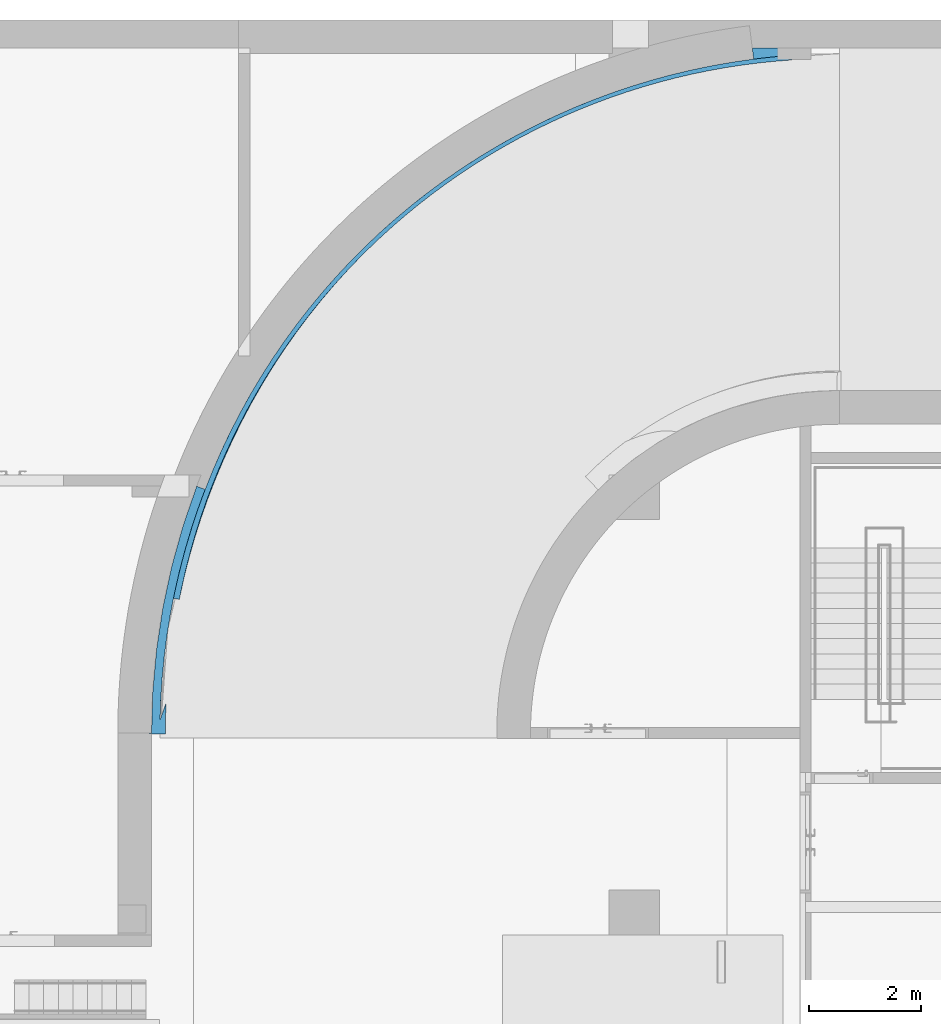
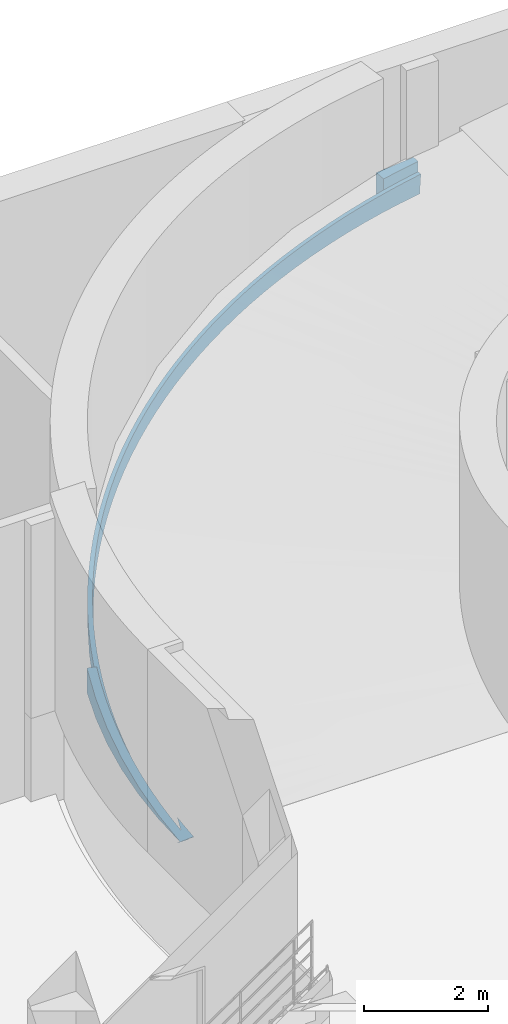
# One storey, part 17 of 30: 1 beam.
"""IFC2X3 building model written with IfcOpenShell, lengths in millimetres."""

from ifc_helpers import new_model, entity, si_unit, converted_unit, derived_unit, direction, frame, origin, place, context, subcontext, project, spatial, faceted_brep, material, material_list, type_object, element, save


model = new_model("IFC2X3")

# Units and contexts
model_context = context("Model", 3, precision=0.01, world=origin(), true_north=direction((6.123031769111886e-17, 1.0)))
body_context = subcontext(model_context, "Body", "Model", "MODEL_VIEW")
ifc_project = project(units=[si_unit("LENGTHUNIT", "METRE", prefix="MILLI"), si_unit("AREAUNIT", "SQUARE_METRE"), si_unit("VOLUMEUNIT", "CUBIC_METRE"), converted_unit("PLANEANGLEUNIT", "DEGREE", entity("IfcRatioMeasure", 0.017453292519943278), si_unit("PLANEANGLEUNIT", "RADIAN"), dimensions=[0, 0, 0, 0, 0, 0, 0]), si_unit("MASSUNIT", "GRAM", prefix="KILO"), derived_unit("MASSDENSITYUNIT", [(si_unit("MASSUNIT", "GRAM", prefix="KILO"), 1), (si_unit("LENGTHUNIT", "METRE"), -3)]), derived_unit("MOMENTOFINERTIAUNIT", [(si_unit("LENGTHUNIT", "METRE"), 4)]), si_unit("TIMEUNIT", "SECOND"), si_unit("FREQUENCYUNIT", "HERTZ"), si_unit("THERMODYNAMICTEMPERATUREUNIT", "DEGREE_CELSIUS"), derived_unit("THERMALTRANSMITTANCEUNIT", [(si_unit("MASSUNIT", "GRAM", prefix="KILO"), 1), (si_unit("THERMODYNAMICTEMPERATUREUNIT", "KELVIN"), -1), (si_unit("TIMEUNIT", "SECOND"), -3)]), derived_unit("VOLUMETRICFLOWRATEUNIT", [(si_unit("LENGTHUNIT", "METRE"), 3), (si_unit("TIMEUNIT", "SECOND"), -1)]), derived_unit("MASSFLOWRATEUNIT", [(si_unit("MASSUNIT", "GRAM", prefix="KILO"), 1), (si_unit("TIMEUNIT", "SECOND"), -1)]), derived_unit("ROTATIONALFREQUENCYUNIT", [(si_unit("TIMEUNIT", "SECOND"), -1)]), si_unit("ELECTRICCURRENTUNIT", "AMPERE"), si_unit("ELECTRICVOLTAGEUNIT", "VOLT"), si_unit("POWERUNIT", "WATT"), si_unit("FORCEUNIT", "NEWTON", prefix="KILO"), si_unit("ILLUMINANCEUNIT", "LUX"), si_unit("LUMINOUSFLUXUNIT", "LUMEN"), si_unit("LUMINOUSINTENSITYUNIT", "CANDELA"), derived_unit("USERDEFINED", [(si_unit("MASSUNIT", "GRAM", prefix="KILO"), -1), (si_unit("LENGTHUNIT", "METRE"), -2), (si_unit("TIMEUNIT", "SECOND"), 3), (si_unit("LUMINOUSFLUXUNIT", "LUMEN"), 1)]), derived_unit("SOUNDPOWERUNIT", [(si_unit("MASSUNIT", "GRAM", prefix="KILO"), 1), (si_unit("LENGTHUNIT", "METRE"), 2), (si_unit("TIMEUNIT", "SECOND"), -3)]), derived_unit("SOUNDPRESSUREUNIT", [(si_unit("MASSUNIT", "GRAM", prefix="KILO"), 1), (si_unit("LENGTHUNIT", "METRE"), -1), (si_unit("TIMEUNIT", "SECOND"), -2)]), derived_unit("LINEARVELOCITYUNIT", [(si_unit("LENGTHUNIT", "METRE"), 1), (si_unit("TIMEUNIT", "SECOND"), -1)]), si_unit("PRESSUREUNIT", "PASCAL"), derived_unit("USERDEFINED", [(si_unit("LENGTHUNIT", "METRE"), -2), (si_unit("MASSUNIT", "GRAM", prefix="KILO"), 1), (si_unit("TIMEUNIT", "SECOND"), -2)]), derived_unit("LINEARFORCEUNIT", [(si_unit("MASSUNIT", "GRAM", prefix="KILO"), 1), (si_unit("LENGTHUNIT", "METRE"), 1), (si_unit("TIMEUNIT", "SECOND"), -2), (si_unit("LENGTHUNIT", "METRE"), -1)]), derived_unit("PLANARFORCEUNIT", [(si_unit("MASSUNIT", "GRAM", prefix="KILO"), 1), (si_unit("LENGTHUNIT", "METRE"), 1), (si_unit("TIMEUNIT", "SECOND"), -2), (si_unit("LENGTHUNIT", "METRE"), -2)])], contexts=[model_context])

# Site, building, storey
site_placement = place(None, frame((-14167.972527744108, -657.2125860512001, 0.0)))
site = spatial("IfcSite", under=ifc_project, at=site_placement, Name="Default", CompositionType="ELEMENT")
building_placement = place(site_placement, origin())
building = spatial("IfcBuilding", under=site, at=building_placement, Name="Sample Building", CompositionType="ELEMENT")
storey_placement = place(building_placement, frame((0.0, 0.0, -10100.0)))
storey = spatial("IfcBuildingStorey", under=building, at=storey_placement, Name="지하2층", CompositionType="ELEMENT", Elevation=-10100.0)

# Beam
ifc_material = material(Name="KBIMS-콘크리트")
ifc_material_list = material_list([ifc_material, ifc_material])
beam_type = type_object("IfcBeamType", Name="BM111-철근콘크리트구조 보:BM110-철근 콘크리트구조 보_600 x 600_RAWG1", PredefinedType="BEAM", material=ifc_material_list)
beam_placement = place(storey_placement, frame((18467.955473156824, 23142.117188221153, -1.595272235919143), z_axis=(0.08470494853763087, 0.09082508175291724, -0.9922579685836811), x_axis=(0.9963985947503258, -0.0038616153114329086, 0.08470494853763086)))
element("IfcBeam", 1, at=beam_placement, inside=storey, type_object=beam_type, material=ifc_material, Name="BM111-철근콘크리트구조 보:BM110-철근 콘크리트구조 보_600 x 600_RAWG1", ObjectType="BM111-철근콘크리트구조 보:BM110-철근 콘크리트구조 보_600 x 600_RAWG1", context=body_context, shape_type="Brep", body=[
    faceted_brep([(199.42467686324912, -2.681724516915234, 15.661806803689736), (199.81906092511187, -2.6821285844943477, 11.027553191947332), (200.21345970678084, -2.682532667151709, 6.393300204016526), (250.148136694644, -2.733693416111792, 10.59307301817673), (300.0828531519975, -2.784854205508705, 14.792293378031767), (300.0828531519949, -2.784854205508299, -0.21190610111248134), (13.679524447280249, -2.491418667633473, -0.21190610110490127), (245.79259344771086, -1014.9457777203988, -0.211906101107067), (284.86162094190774, -1397.23001296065, -0.211906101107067), (335.9749721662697, -1778.1817190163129, -0.21190610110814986), (399.08159401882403, -2157.4204386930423, -0.21190610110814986), (474.1184559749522, -2534.567425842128, -0.21190610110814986), (561.0106130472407, -2909.246023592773, -0.21190610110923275), (659.6712806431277, -3281.082040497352, -0.2119061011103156), (770.0019212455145, -3649.704124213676, -0.21190610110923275), (891.892342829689, -4014.744132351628, -0.21190610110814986), (1025.2208089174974, -4375.837500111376, -0.21190610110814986), (875.6696665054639, -4432.8172233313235, -0.211906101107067), (627.8235505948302, -3721.0292058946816, -0.2119061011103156), (423.2532322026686, -2995.892553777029, -0.21190610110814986), (262.7086422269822, -2260.061708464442, -0.21190610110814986), (146.7753151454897, -1516.219862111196, -0.21190610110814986), (75.87616927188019, -767.0794241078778, -0.21190610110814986), (50.26996415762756, -15.372139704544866, -0.21190610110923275), (0.0768359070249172, -15.17750725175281, -0.21190610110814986), (300.7895502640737, -71.3291867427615, -0.211906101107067), (301.49624737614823, -139.87351928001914, -0.2119061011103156), (302.2029444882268, -208.41785181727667, -0.21190610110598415), (302.90964160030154, -276.9621843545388, -0.21190610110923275), (305.45122011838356, -354.0044306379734, -0.21190610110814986), (306.7220093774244, -392.5255537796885, -0.21190610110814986), (307.99279863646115, -431.04667692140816, -0.211906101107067), (308.9819823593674, -461.03156051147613, -0.21190610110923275), (309.47657422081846, -476.0240023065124, -0.21190610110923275), (309.9711660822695, -491.01644410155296, -0.2119061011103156), (310.4657579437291, -506.00888589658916, -0.21190610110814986), (310.71305387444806, -513.5051067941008, -0.21190610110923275), (310.96034980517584, -521.0013276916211, -0.21190610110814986), (311.9495335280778, -550.9862112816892, -0.2119061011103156), (289.83108242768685, -490.5598374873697, -0.21190610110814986), (267.9715820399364, -430.037635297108, -0.21190610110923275), (246.3696779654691, -369.42133337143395, -0.2119061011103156), (225.02404442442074, -308.7126251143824, -0.211906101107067), (203.93154096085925, -247.9078227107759, -0.21190610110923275), (211.36922865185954, -439.8093302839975, -0.211906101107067), (218.80691634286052, -631.710837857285, -0.21190610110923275), (11202.702187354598, -12150.559638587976, -0.21190610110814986), (11545.11293759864, -12180.693896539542, -0.21190610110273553), (11537.054926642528, -12310.604963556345, -0.21190610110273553), (10836.934939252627, -12307.890128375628, -0.21190610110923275), (10861.209765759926, -12110.75450450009, -0.2119061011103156), (300.7192352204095, -139.87139772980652, 10.845368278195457), (301.6200562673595, -208.41116875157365, 8.92136521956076), (302.9092835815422, -276.9456451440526, 7.030075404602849), (307.8799562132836, -448.2424674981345, 2.4476795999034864), (300.206833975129, -71.3285526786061, 12.802279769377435), (309.1070741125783, -482.4951027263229, 1.5505117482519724), (309.91643868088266, -501.997325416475, 1.0486792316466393), (310.3211209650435, -511.7484367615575, 0.7977629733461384), (310.7258032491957, -521.4995481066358, 0.5468467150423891), (308.4935151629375, -465.36878511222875, 1.999095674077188), (305.61986451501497, -379.73121934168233, 4.258074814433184), (306.65283831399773, -413.98983226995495, 3.344847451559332), (304.5868907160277, -345.4726064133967, 5.171302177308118), (3829.737476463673, -8555.133307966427, 599.7880938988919), (3569.3248494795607, -8285.696239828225, 599.7880938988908), (3317.3828918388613, -8008.322202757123, 599.7880938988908), (3074.153381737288, -7723.277373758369, 599.7880938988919), (2839.869737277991, -7430.835290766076, 599.7880938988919), (2614.756792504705, -7131.276590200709, 599.7880938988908), (2399.030581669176, -6824.888737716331, 599.7880938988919), (2192.898131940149, -6511.965752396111, 599.7880938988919), (1996.557264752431, -6192.8079246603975, 599.7880938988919), (1810.1964059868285, -5867.721528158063, 599.7880938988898), (1633.9944051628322, -5537.018525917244, 599.7880938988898), (1468.1203637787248, -5201.016270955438, 599.788093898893), (1390.2045387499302, -5273.681836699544, 599.7880938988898), (1572.4358976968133, -5618.58747635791, 599.7880938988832), (1754.667256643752, -5963.493116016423, 599.7880938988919), (1958.4904793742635, -6296.197473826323, 599.7880938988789), (2162.313702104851, -6628.90183163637, 599.7880938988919), (2386.893607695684, -6948.041626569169, 599.7880938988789), (2611.4735132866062, -7267.181421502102, 599.7880938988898), (2855.889868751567, -7571.448954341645, 599.788093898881), (3100.3062242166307, -7875.7164871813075, 599.7880938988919), (3363.5575152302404, -8163.864998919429, 599.7880938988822), (3626.8088062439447, -8452.013510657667, 599.7880938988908), (3907.8163409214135, -8722.862291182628, 599.7880938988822), (4188.823875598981, -8993.711071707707, 599.7880938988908), (4486.4362045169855, -9246.15029785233, 599.7880938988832), (4784.0485334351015, -9498.589523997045, 599.7880938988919), (5021.482268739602, -9669.539461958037, 599.7880938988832), (5258.916004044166, -9840.489399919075, 599.7880938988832), (5496.349739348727, -10011.439337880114, 599.7880938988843), (5733.783474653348, -10182.389275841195, 599.7880938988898), (6067.436050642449, -10384.454529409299, 599.7880938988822), (6401.0886266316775, -10586.519782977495, 599.7880938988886), (6746.813536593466, -10766.912155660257, 599.7880938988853), (7092.538446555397, -10947.30452834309, 599.7880938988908), (7448.919056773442, -11105.284848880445, 599.7880938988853), (7805.299666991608, -11263.265169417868, 599.7880938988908), (8170.875681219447, -11398.186101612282, 599.7880938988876), (8536.451695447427, -11533.107033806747, 599.7880938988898), (8909.725138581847, -11644.415729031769, 599.7880938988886), (9282.998581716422, -11755.72442425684, 599.7880938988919), (9662.4399378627, -11842.964786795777, 599.7880938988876), (10041.881294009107, -11930.205149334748, 599.7880938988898), (10425.935773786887, -11993.019705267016, 599.7880938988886), (10809.990253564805, -12055.834261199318, 599.7880938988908), (10785.715427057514, -12252.96988507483, 599.7880938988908), (11485.835414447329, -12255.68472025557, 599.7880938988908), (11496.876474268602, -12077.681008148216, 599.7880938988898), (11123.6736301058, -12044.041323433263, 599.7880938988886), (10751.692129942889, -11998.857914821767, 599.788093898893), (10381.288727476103, -11942.174132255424, 599.7880938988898), (10012.818950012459, -11874.04439167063, 599.7880938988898), (9646.636396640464, -11794.534084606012, 599.7880938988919), (9283.092471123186, -11703.71952306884, 599.7880938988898), (8922.536044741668, -11601.687866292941, 599.7880938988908), (8565.313121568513, -11488.53703709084, 599.7880938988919), (8211.76650649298, -11364.37562788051, 599.7880938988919), (7862.2354763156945, -11229.322796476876, 599.788093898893), (7517.05545422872, -11083.508151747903, 599.7880938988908), (7176.557687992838, -10927.071629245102, 599.7880938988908), (6841.068932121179, -10760.16335692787, 599.7880938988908), (6510.911134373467, -10582.94351111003, 599.7880938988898), (6186.401126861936, -10395.582162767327, 599.7880938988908), (5867.850322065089, -10198.259114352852, 599.7880938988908), (5555.564414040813, -9991.163727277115, 599.7880938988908), (5249.843085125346, -9774.494740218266, 599.7880938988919), (4950.979718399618, -9548.46007843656, 599.7880938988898), (4659.261116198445, -9313.27665427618, 599.7880938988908), (4374.967224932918, -9069.170159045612, 599.7880938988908), (4098.3708664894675, -8816.374846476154, 599.7880938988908), (11528.269038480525, -12162.632985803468, 197.10234071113), (11531.138386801, -12121.512205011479, 193.60132796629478), (11534.007724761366, -12080.391413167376, 190.1004365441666), (11515.441066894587, -12079.050497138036, 394.94587402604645), (914.2405362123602, -3820.519053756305, 426.1435978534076), (802.629958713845, -3465.566638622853, 384.1257439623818), (701.989679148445, -3107.3494151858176, 342.745538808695), (657.2022969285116, -2926.7778768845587, 322.39383766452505), (612.4149147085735, -2746.206338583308, 302.0421365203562), (582.5642451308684, -2607.7610767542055, 286.82149619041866), (558.2773290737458, -2495.12010420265, 274.437773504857), (533.9904130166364, -2382.479131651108, 262.0540508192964), (481.92651481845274, -2393.5575974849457, 258.6236251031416), (429.8626166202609, -2404.636063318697, 255.19319938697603), (367.4395793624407, -2065.266606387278, 218.80064828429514), (314.79231678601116, -1724.172307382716, 183.0847332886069), (271.9641206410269, -1381.633647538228, 148.0748235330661), (238.99020847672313, -1037.9322957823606, 113.79970760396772), (215.8976946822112, -693.3508771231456, 80.28756986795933), (209.301631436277, -520.7618086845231, 63.92676858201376), (202.7055681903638, -348.1727402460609, 47.565967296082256), (201.0651225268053, -175.42723238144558, 31.61388704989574), (200.2448996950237, -89.05447844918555, 23.637846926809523), (199.83478827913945, -45.86810148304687, 19.64982686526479), (49.90833468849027, -14.984381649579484, 4.02432482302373), (69.54767937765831, -760.2936423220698, 73.92179746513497), (134.1747343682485, -1502.7087873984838, 147.3947751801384), (243.5536148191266, -2239.5225979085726, 224.17531958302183), (397.28530601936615, -2968.048292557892, 303.9834373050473), (594.8091184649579, -3685.629315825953, 386.528100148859), (835.4009734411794, -4389.639021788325, 471.5070697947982), (984.3174611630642, -4331.978788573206, 478.941596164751), (1110.6271642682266, -4649.754880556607, 518.8113656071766), (1245.9593759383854, -4963.740625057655, 559.1044045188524), (1313.7867657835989, -4862.446047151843, 555.6226761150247), (1169.939918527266, -4519.289398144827, 511.93265611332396), (1036.71581493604, -4171.870793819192, 468.75934298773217), (201.46165363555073, -125.30602044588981, 3.0395860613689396), (200.8375566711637, -63.99427655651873, 4.716443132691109), (585.5286318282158, -3064.6040866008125, 247.6835754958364), (503.1428974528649, -2735.68337036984, 251.1470724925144), (1004.7937429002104, -4353.934530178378, 239.07658152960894), (777.3649918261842, -3715.0450314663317, 242.38958322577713), (886.6709934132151, -4036.0586814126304, 240.5003688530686), (676.9588618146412, -3391.1427545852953, 244.77412529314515), (11185.068925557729, -12131.660858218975, 206.24618984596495), (9370.943459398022, -11803.442140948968, 242.348568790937), (9009.266686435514, -11703.639108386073, 247.26751027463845), (9150.162727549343, -11667.504989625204, 240.9001201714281), (9735.485621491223, -11892.163936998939, 236.65810868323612), (9442.999720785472, -11745.139654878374, 236.50623647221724), (8859.355319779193, -11582.558916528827, 244.7947252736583), (8650.794647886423, -11592.84556863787, 251.45284518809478), (10842.872392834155, -12091.092212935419, 214.59731960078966), (10931.11349864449, -12022.11170040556, 206.34095189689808), (11232.204232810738, -12055.026701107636, 198.5367358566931), (10471.795494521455, -12036.053406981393, 222.81667703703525), (10630.926235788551, -11981.666041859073, 213.530598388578), (10102.551104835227, -11969.724263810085, 230.15919477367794), (10034.02137124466, -11878.285642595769, 226.1379292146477), (10331.832447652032, -11933.714234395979, 220.12354066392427), (8570.761079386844, -11490.354567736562, 248.21120132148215), (8295.863649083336, -11471.162676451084, 254.94325469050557), (7944.806629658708, -11338.701924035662, 257.7779898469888), (8284.562097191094, -11390.949703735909, 251.17099012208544), (6585.841642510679, -10703.665909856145, 263.35580897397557), (6895.7501942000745, -10788.256791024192, 259.88170884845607), (6918.151681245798, -10877.920277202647, 262.7451109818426), (6363.1661671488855, -10499.30128674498, 260.93738013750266), (6259.00889811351, -10519.342139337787, 263.5125900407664), (5012.492533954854, -9684.911095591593, 260.44152036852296), (5100.764674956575, -9663.563855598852, 259.1001116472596), (5314.4095567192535, -9907.710326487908, 261.67946229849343), (4717.526544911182, -9452.98913381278, 258.96154617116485), (4861.396460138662, -9477.816922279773, 258.150966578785), (7442.132711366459, -11050.177961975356, 257.52749392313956), (7597.952839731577, -11195.585038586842, 259.9966700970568), (7255.627536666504, -11041.943876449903, 261.6390167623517), (7167.301768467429, -10922.639417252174, 258.8782218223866), (7720.070065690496, -11170.792296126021, 255.8073033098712), (5845.719616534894, -10184.037525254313, 260.87743057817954), (5937.959733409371, -10325.119879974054, 263.25735930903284), (5622.994947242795, -10121.179436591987, 262.63224990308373), (6102.468510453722, -10344.909959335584, 261.0353301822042), (5593.080729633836, -10016.785026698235, 260.4868045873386), (4429.787666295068, -9212.160477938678, 257.28310269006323), (4626.755974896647, -9286.13325857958, 257.06294469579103), (6627.648803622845, -10647.114519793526, 260.56049736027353), (660.9360746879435, -3119.8138109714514, 250.38888249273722), (9737.681341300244, -11815.414453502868, 231.59228900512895), (579.4824553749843, -2825.6622161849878, 253.22391226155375), (922.5973965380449, -3845.6419910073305, 246.26838546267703), (925.9099171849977, -3994.5385296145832, 243.1364679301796), (831.9354921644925, -3704.960001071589, 245.2119731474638), (745.179085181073, -3266.2974093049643, 251.22859375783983), (738.6475872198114, -3414.520464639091, 247.350034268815), (667.4090181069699, -2973.480191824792, 254.36413187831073), (1022.1343827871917, -4131.804259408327, 244.39968859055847), (1128.8081245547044, -4415.385710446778, 242.9089498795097), (830.2596537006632, -3557.079106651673, 248.5373126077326), (8000.938838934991, -11284.406657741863, 253.69575392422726), (5344.710454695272, -9843.257488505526, 259.8865886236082), (4396.990391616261, -9088.633136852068, 255.85996533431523), (3356.3795351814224, -8164.3907229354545, 249.46028570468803), (3529.511051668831, -8242.998866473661, 250.37743899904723), (3612.590099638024, -8438.520113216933, 251.49499157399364), (3108.668647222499, -7882.557128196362, 247.4456779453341), (2869.6887040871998, -7593.282686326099, 245.49516228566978), (3128.6132247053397, -7788.669347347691, 247.56782548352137), (3326.2169294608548, -8018.344792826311, 248.95841751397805), (4149.545119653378, -8962.649610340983, 255.4499934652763), (4172.243804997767, -8885.440457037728, 254.56600547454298), (3877.06101420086, -8704.689246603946, 253.50606174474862), (3952.657148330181, -8676.68267059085, 253.2050293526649), (2571.1656071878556, -7070.970156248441, 243.80716896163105), (2639.662695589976, -7296.837813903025, 243.65279634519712), (2418.8051209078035, -6993.49972959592, 241.9625003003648), (3738.3681110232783, -8462.490702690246, 251.80091826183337), (2750.9691256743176, -7314.833461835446, 244.96816219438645), (2207.3217875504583, -6683.552188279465, 240.46785606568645), (2397.5261133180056, -6822.679574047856, 242.77062022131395), (2230.1596060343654, -6570.117462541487, 241.8821991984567), (2005.4096158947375, -6367.285198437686, 239.21192923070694), (1631.0409117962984, -5716.982570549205, 237.5873264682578), (1766.7284656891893, -5788.399467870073, 240.3398498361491), (1813.2564566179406, -6044.994753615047, 238.2374901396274), (1458.932156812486, -5383.555793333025, 237.3040983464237), (1625.4642064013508, -5520.361480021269, 240.277951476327), (1145.6636461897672, -4701.712399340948, 238.0072607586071), (1363.2934338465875, -4974.094018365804, 240.972001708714), (1297.0897819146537, -5045.0266994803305, 237.43013983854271), (1490.9576962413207, -5248.869467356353, 240.4809810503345), (1914.6617414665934, -6052.815073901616, 240.6434326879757), (596.9981312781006, -2678.812123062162, 257.9655364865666), (2936.8238599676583, -7554.116544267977, 246.2297177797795), (2069.1711275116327, -6313.442271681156, 241.16534676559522), (1242.5516250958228, -4696.20785197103, 241.77382575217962), (558.9317228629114, -2499.781156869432, 260.43563159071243), (577.9649270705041, -2589.2966399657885, 259.2005840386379), (632.2035746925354, -2826.146157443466, 256.1648341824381)], [[[0, 1, 2, 3, 4, 5, 6]], [[7, 8, 9, 10, 11, 12, 13, 14, 15, 16, 17, 18, 19, 20, 21, 22, 23, 24, 6, 5, 25, 26, 27, 28, 29, 30, 31, 32, 33, 34, 35, 36, 37, 38, 39, 40, 41, 42, 43, 44, 45]], [[46, 47, 48, 49, 50]], [[51, 52, 26]], [[53, 28, 27]], [[31, 54, 32]], [[26, 25, 51]], [[4, 55, 5]], [[25, 55, 51]], [[34, 33, 56, 57, 58, 59, 38, 37, 36, 35]], [[54, 60, 32]], [[61, 62, 30]], [[63, 61, 29]], [[29, 61, 30]], [[27, 26, 52]], [[28, 53, 63]], [[62, 31, 30]], [[62, 54, 31]], [[29, 28, 63]], [[27, 52, 53]], [[56, 33, 60]], [[32, 60, 33]], [[25, 5, 55]], [[64, 65, 66, 67, 68, 69, 70, 71, 72, 73, 74, 75, 76, 77, 78, 79, 80, 81, 82, 83, 84, 85, 86, 87, 88, 89, 90, 91, 92, 93, 94, 95, 96, 97, 98, 99, 100, 101, 102, 103, 104, 105, 106, 107, 108, 109, 110, 111, 112, 113, 114, 115, 116, 117, 118, 119, 120, 121, 122, 123, 124, 125, 126, 127, 128, 129, 130, 131, 132, 133]], [[48, 47, 134, 135, 136, 137, 111, 110]], [[138, 139, 140, 141, 142, 143, 144, 145, 146, 147, 148, 149, 150, 151, 152, 153, 154, 155, 156, 157, 0, 6, 24, 158, 159, 160, 161, 162, 163, 164, 165, 166, 167, 76, 75, 168, 169, 170]], [[154, 43, 155]], [[156, 171, 172]], [[149, 9, 8]], [[44, 43, 154]], [[152, 45, 153]], [[171, 155, 43]], [[152, 7, 45]], [[156, 155, 171]], [[44, 153, 45]], [[8, 7, 150]], [[2, 157, 172]], [[1, 157, 2]], [[44, 154, 153]], [[152, 151, 7]], [[7, 151, 150]], [[150, 149, 8]], [[149, 148, 9]], [[13, 12, 173]], [[12, 11, 174]], [[175, 16, 15]], [[176, 14, 13]], [[14, 177, 15]], [[1, 0, 157]], [[175, 15, 177]], [[10, 147, 11]], [[147, 174, 11]], [[10, 148, 147]], [[157, 156, 172]], [[9, 148, 10]], [[176, 13, 178]], [[173, 12, 174]], [[178, 13, 173]], [[176, 177, 14]], [[63, 40, 39]], [[41, 40, 53]], [[53, 40, 63]], [[39, 38, 59, 58, 57, 56]], [[39, 62, 61, 63]], [[39, 56, 60, 54, 62]], [[3, 42, 41]], [[42, 3, 171]], [[3, 2, 172, 171]], [[3, 41, 52]], [[52, 41, 53]], [[3, 51, 55]], [[3, 55, 4]], [[51, 3, 52]], [[171, 43, 42]], [[135, 134, 179]], [[180, 181, 182]], [[183, 180, 184]], [[185, 181, 186]], [[187, 188, 179]], [[179, 189, 135]], [[190, 191, 187]], [[192, 183, 193]], [[190, 192, 194]], [[195, 186, 196]], [[197, 198, 196]], [[199, 200, 201]], [[202, 199, 203]], [[204, 205, 206]], [[207, 208, 204]], [[209, 210, 211]], [[212, 211, 201]], [[197, 210, 213]], [[214, 215, 216]], [[217, 203, 215]], [[202, 203, 217]], [[206, 218, 216]], [[207, 219, 220]], [[202, 221, 199]], [[222, 178, 173]], [[184, 223, 183]], [[182, 184, 180]], [[146, 224, 174]], [[225, 226, 227]], [[195, 185, 186]], [[198, 195, 196]], [[228, 229, 222]], [[182, 181, 185]], [[228, 222, 230]], [[226, 231, 232]], [[189, 136, 135]], [[188, 189, 179]], [[225, 227, 233]], [[194, 191, 190]], [[193, 194, 192]], [[222, 229, 178]], [[188, 187, 191]], [[176, 226, 177]], [[223, 193, 183]], [[200, 212, 201]], [[221, 200, 199]], [[176, 227, 226]], [[214, 217, 215]], [[218, 214, 216]], [[213, 234, 197]], [[209, 213, 210]], [[205, 235, 206]], [[220, 208, 207]], [[205, 204, 208]], [[218, 206, 235]], [[212, 209, 211]], [[198, 197, 234]], [[219, 236, 220]], [[237, 238, 239]], [[240, 241, 242]], [[243, 237, 240]], [[244, 245, 236]], [[245, 244, 246]], [[247, 245, 246]], [[248, 249, 250]], [[239, 251, 246]], [[241, 249, 252]], [[253, 254, 250]], [[255, 253, 256]], [[244, 236, 219]], [[257, 258, 259]], [[257, 260, 261]], [[229, 176, 178]], [[224, 222, 173]], [[232, 262, 175]], [[263, 264, 262]], [[227, 176, 229]], [[224, 173, 174]], [[147, 146, 174]], [[177, 226, 175]], [[260, 264, 265]], [[256, 259, 266]], [[224, 146, 267]], [[251, 247, 246]], [[238, 251, 239]], [[242, 243, 240]], [[268, 242, 241]], [[238, 237, 243]], [[248, 252, 249]], [[254, 248, 250]], [[269, 255, 256]], [[266, 269, 256]], [[254, 253, 255]], [[268, 241, 252]], [[261, 258, 257]], [[265, 261, 260]], [[270, 263, 262]], [[232, 270, 262]], [[265, 264, 263]], [[225, 231, 226]], [[229, 233, 227]], [[224, 230, 222]], [[146, 145, 271, 272, 267]], [[224, 267, 273, 230]], [[233, 229, 228]], [[175, 226, 232]], [[266, 259, 258]], [[232, 169, 270]], [[168, 263, 270]], [[265, 74, 261]], [[265, 263, 168]], [[261, 74, 258]], [[228, 230, 140]], [[228, 139, 233]], [[231, 225, 138]], [[138, 225, 233]], [[231, 170, 232]], [[266, 258, 73]], [[255, 269, 71]], [[254, 255, 70]], [[69, 252, 248]], [[254, 70, 248]], [[268, 252, 68]], [[66, 243, 242]], [[66, 238, 243]], [[64, 247, 251]], [[65, 251, 238]], [[242, 268, 67]], [[72, 269, 266]], [[245, 247, 133]], [[143, 142, 267, 272, 271, 145, 144]], [[273, 141, 230]], [[142, 141, 273]], [[139, 228, 140]], [[170, 231, 138]], [[258, 74, 73]], [[168, 270, 169]], [[168, 75, 265]], [[75, 74, 265]], [[232, 170, 169]], [[139, 138, 233]], [[71, 70, 255]], [[269, 72, 71]], [[69, 68, 252]], [[248, 70, 69]], [[68, 67, 268]], [[266, 73, 72]], [[238, 66, 65]], [[66, 242, 67]], [[65, 64, 251]], [[247, 64, 133]], [[245, 133, 132]], [[132, 220, 236]], [[132, 236, 245]], [[131, 208, 220]], [[121, 234, 213]], [[122, 213, 209]], [[123, 209, 212]], [[128, 218, 235]], [[129, 235, 205]], [[124, 200, 221]], [[127, 214, 218]], [[200, 123, 212]], [[130, 205, 208]], [[141, 140, 230]], [[114, 191, 194]], [[114, 194, 193]], [[273, 267, 142]], [[137, 136, 189]], [[137, 189, 188]], [[113, 188, 191]], [[119, 185, 195]], [[119, 195, 198]], [[116, 223, 184]], [[117, 184, 182]], [[118, 182, 185]], [[223, 115, 193]], [[120, 198, 234]], [[130, 129, 205]], [[208, 131, 130]], [[127, 218, 128]], [[235, 129, 128]], [[202, 217, 126]], [[127, 217, 214]], [[127, 126, 217]], [[126, 125, 202]], [[221, 125, 124]], [[125, 221, 202]], [[123, 200, 124]], [[209, 123, 122]], [[234, 121, 120]], [[121, 213, 122]], [[185, 119, 118]], [[119, 198, 120]], [[117, 116, 184]], [[182, 118, 117]], [[193, 115, 114]], [[115, 223, 116]], [[191, 114, 113]], [[137, 112, 111]], [[188, 113, 112]], [[137, 188, 112]], [[132, 131, 220]], [[22, 21, 160]], [[23, 22, 159]], [[158, 23, 159]], [[159, 22, 160]], [[21, 161, 160]], [[21, 20, 161]], [[18, 17, 164]], [[19, 18, 163]], [[20, 162, 161]], [[20, 19, 162]], [[162, 19, 163]], [[18, 164, 163]], [[158, 24, 23]], [[175, 165, 164, 17, 16]], [[250, 249, 82]], [[241, 83, 249]], [[81, 253, 250]], [[80, 256, 253]], [[84, 83, 240]], [[87, 244, 88]], [[88, 244, 219]], [[239, 86, 85]], [[86, 239, 246]], [[246, 87, 86]], [[240, 237, 84]], [[219, 89, 88]], [[237, 85, 84]], [[262, 264, 167]], [[175, 262, 166]], [[165, 175, 166]], [[166, 262, 167]], [[264, 76, 167]], [[264, 260, 76]], [[78, 257, 259]], [[249, 83, 82]], [[81, 80, 253]], [[77, 260, 257]], [[77, 76, 260]], [[256, 79, 259]], [[78, 259, 79]], [[196, 102, 101]], [[201, 98, 97]], [[196, 186, 102]], [[196, 101, 197]], [[211, 210, 99]], [[204, 92, 91, 90]], [[100, 210, 197]], [[240, 83, 241]], [[256, 80, 79]], [[98, 201, 211]], [[186, 181, 103]], [[244, 87, 246]], [[192, 190, 107]], [[183, 106, 105]], [[181, 104, 103]], [[108, 190, 187]], [[180, 183, 105]], [[190, 108, 107]], [[210, 100, 99]], [[106, 183, 192]], [[107, 106, 192]], [[181, 180, 104]], [[93, 206, 216]], [[104, 180, 105]], [[257, 78, 77]], [[216, 215, 94]], [[93, 92, 206]], [[90, 89, 207]], [[90, 207, 204]], [[92, 204, 206]], [[216, 94, 93]], [[215, 95, 94]], [[96, 203, 199]], [[186, 103, 102]], [[101, 100, 197]], [[207, 89, 219]], [[199, 201, 97]], [[203, 95, 215]], [[211, 99, 98]], [[97, 96, 199]], [[239, 85, 237]], [[250, 82, 81]], [[96, 95, 203]], [[187, 50, 49, 109, 108]], [[187, 179, 50]], [[46, 50, 179]], [[134, 47, 46]], [[179, 134, 46]], [[110, 109, 49, 48]]]),
])

save(model, "model.ifc")
